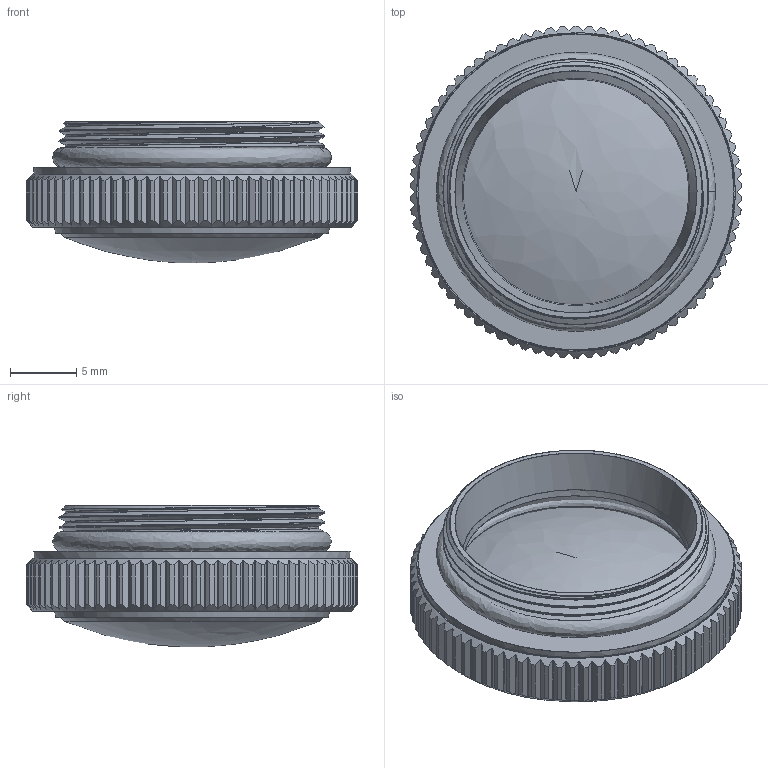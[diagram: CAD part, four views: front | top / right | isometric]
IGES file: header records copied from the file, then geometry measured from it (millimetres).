
Global section: file name: C:\Users\mmoretti\Downloads\Nuova cartella\DSD-1054_95ACC2680-Lens 18 _GOT-0597 Lens X-0178.igs; native system: NX V12.0; preprocessor: SIEMENS PLM Software NX 12.0; date: 20210304.104530; units: millimetre
Bounding box: 24.99 x 25 x 10.69 mm (x, y, z)
Surface area: 3073.8 mm2 (no closed solid volume)
Topology: 0 solids, 0 shells, 353 faces, 2181 edges, 2151 vertices
Faces by surface type: bspline 353
